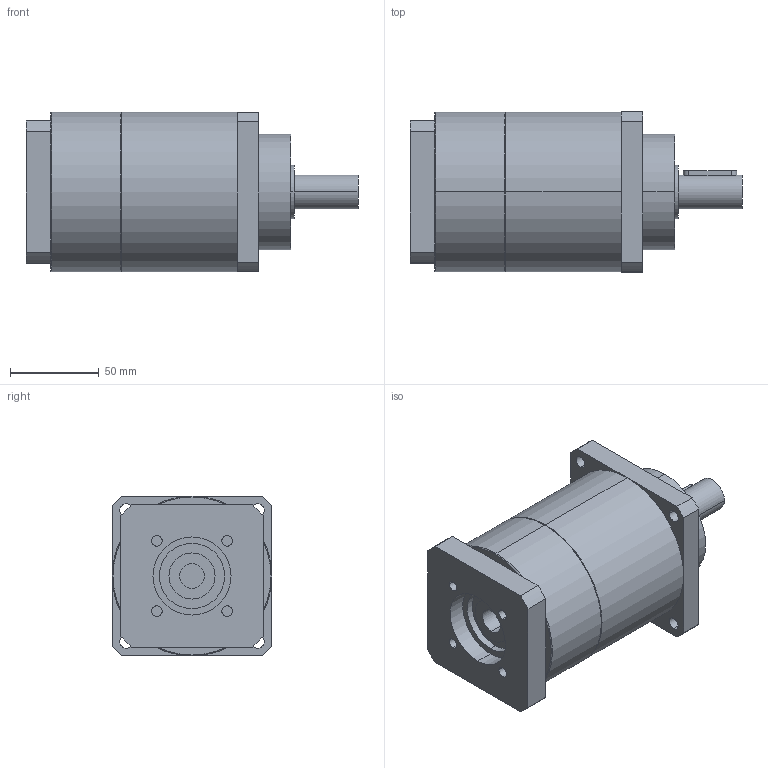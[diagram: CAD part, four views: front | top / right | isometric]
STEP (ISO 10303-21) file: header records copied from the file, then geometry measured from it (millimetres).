
FILE_DESCRIPTION(('CoCreate Modeling STEP Export'),'2;1');
FILE_NAME('GPT90_ig-9-12-16-20-25-28-35-40-50-70-100_19_B5T_14_P31.stp','2015-02-04T11:29:53',(''),(''),'CoCreate Modeling STEP processor for AP214 (Solid Model)','CoCreate Modeling 16.00C 25-Feb-2009 (C) Parametric Technology GmbH','');
FILE_SCHEMA(('AUTOMOTIVE_DESIGN { 1 0 10303 214 1 1 1 1 }'));
Length unit declared in the file: millimetre
Products named in the file (2): GPT90_ig-9-12-16-20-25-28-35-40-50-70-100_19_B5T_14_P31
Assembly tree (1 placements, depth 2):
  GPT90_ig-9-12-16-20-25-28-35-40-50-70-100_19_B5T_14_P31
    GPT90_ig-9-12-16-20-25-28-35-40-50-70-100_19_B5T_14_P31
Bounding box: 187 x 90 x 90 mm (x, y, z)
Volume: 897778.5 mm3; surface area: 67456.1 mm2
Topology: 1 solids, 1 shells, 88 faces, 221 edges, 148 vertices
Faces by surface type: cylinder 46, plane 38, cone 4
Entity records: 2699 total; most frequent: CARTESIAN_POINT 754, ORIENTED_EDGE 442, DIRECTION 330, EDGE_CURVE 221, VERTEX_POINT 148, AXIS2_PLACEMENT_3D 121, EDGE_LOOP 109, VECTOR 88
